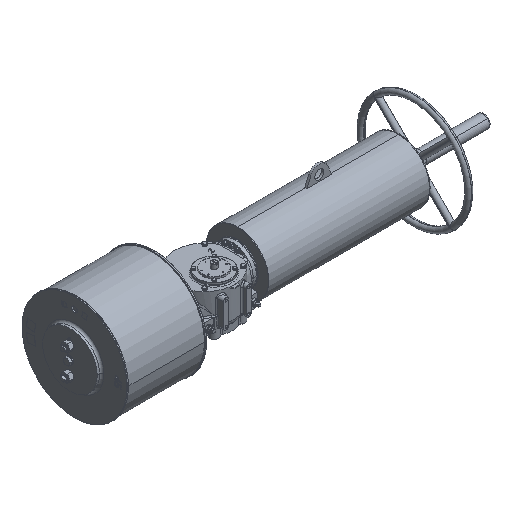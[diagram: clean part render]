
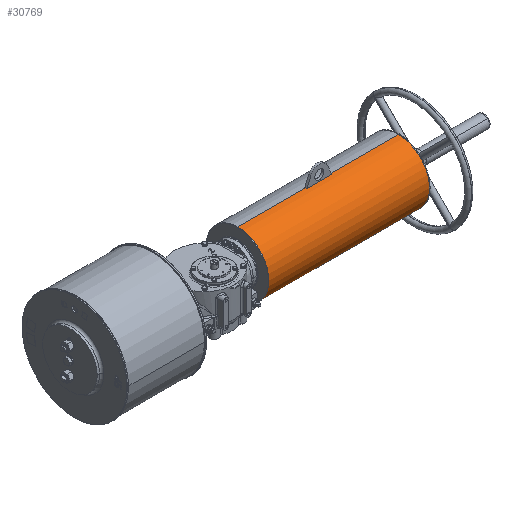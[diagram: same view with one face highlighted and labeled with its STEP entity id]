
A CAD part, isometric view. The second image highlights one B-rep face of the part: STEP entity #30769.
In plain terms, the highlighted cylindrical face has radius 136.5 mm (diameter 273 mm), a partial arc.
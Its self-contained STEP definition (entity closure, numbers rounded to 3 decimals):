
#980 = AXIS2_PLACEMENT_3D ( 'NONE', #63736, #1626, #7952 ) ;
#1626 = DIRECTION ( 'NONE',  ( 1., 0., 0. ) ) ;
#2798 = DIRECTION ( 'NONE',  ( 1., 0., 0. ) ) ;
#3291 = CARTESIAN_POINT ( 'NONE',  ( 886.977, 35.296, 138.5 ) ) ;
#3846 = DIRECTION ( 'NONE',  ( 1., 0., 0. ) ) ;
#7470 = EDGE_CURVE ( 'NONE', #26779, #81012, #63318, .T. ) ;
#7783 = DIRECTION ( 'NONE',  ( -1., 0., 0. ) ) ;
#7881 = DIRECTION ( 'NONE',  ( 0., 0., 1. ) ) ;
#7952 = DIRECTION ( 'NONE',  ( 0., 0., 1. ) ) ;
#8470 = VECTOR ( 'NONE', #62289, 1000. ) ;
#9635 = CIRCLE ( 'NONE', #60312, 136.5 ) ;
#10128 = CARTESIAN_POINT ( 'NONE',  ( 179.977, 35.296, 2. ) ) ;
#10563 = DIRECTION ( 'NONE',  ( 0., 0., 1. ) ) ;
#10880 = CARTESIAN_POINT ( 'NONE',  ( 179.977, 35.296, -134.5 ) ) ;
#13198 = EDGE_CURVE ( 'NONE', #26779, #74088, #74455, .T. ) ;
#13322 = LINE ( 'NONE', #40065, #8470 ) ;
#13792 = VERTEX_POINT ( 'NONE', #57995 ) ;
#15178 = EDGE_CURVE ( 'NONE', #81012, #72886, #22913, .T. ) ;
#19208 = CARTESIAN_POINT ( 'NONE',  ( 183.477, 35.296, 2. ) ) ;
#19403 = VERTEX_POINT ( 'NONE', #67405 ) ;
#21045 = ORIENTED_EDGE ( 'NONE', *, *, #25008, .F. ) ;
#21097 = VECTOR ( 'NONE', #74901, 1000. ) ;
#22913 = LINE ( 'NONE', #50603, #64816 ) ;
#23541 = ORIENTED_EDGE ( 'NONE', *, *, #80437, .T. ) ;
#25008 = EDGE_CURVE ( 'NONE', #13792, #19403, #44027, .T. ) ;
#26779 = VERTEX_POINT ( 'NONE', #72835 ) ;
#30087 = DIRECTION ( 'NONE',  ( -1., 0., 0. ) ) ;
#30769 = ADVANCED_FACE ( 'NONE', ( #31965 ), #81362, .T. ) ;
#30829 = ORIENTED_EDGE ( 'NONE', *, *, #7470, .T. ) ;
#31704 = VERTEX_POINT ( 'NONE', #52940 ) ;
#31965 = FACE_OUTER_BOUND ( 'NONE', #75128, .T. ) ;
#34025 = ORIENTED_EDGE ( 'NONE', *, *, #52867, .T. ) ;
#34605 = CARTESIAN_POINT ( 'NONE',  ( 886.977, 35.296, -134.5 ) ) ;
#35864 = VECTOR ( 'NONE', #2798, 1000. ) ;
#36961 = DIRECTION ( 'NONE',  ( -1., 0., 0. ) ) ;
#38274 = DIRECTION ( 'NONE',  ( 0., 0., 1. ) ) ;
#39316 = ORIENTED_EDGE ( 'NONE', *, *, #15178, .T. ) ;
#39488 = VERTEX_POINT ( 'NONE', #10880 ) ;
#40055 = CIRCLE ( 'NONE', #980, 136.5 ) ;
#40065 = CARTESIAN_POINT ( 'NONE',  ( 183.477, 35.296, -134.5 ) ) ;
#40448 = CARTESIAN_POINT ( 'NONE',  ( 183.477, 35.296, 138.5 ) ) ;
#40904 = DIRECTION ( 'NONE',  ( 1., 0., 0. ) ) ;
#41345 = CARTESIAN_POINT ( 'NONE',  ( 479.477, 35.296, 2. ) ) ;
#43407 = EDGE_CURVE ( 'NONE', #64191, #74088, #81734, .T. ) ;
#44027 = LINE ( 'NONE', #64007, #35864 ) ;
#46605 = CARTESIAN_POINT ( 'NONE',  ( 479.477, 30.296, 138.408 ) ) ;
#48882 = AXIS2_PLACEMENT_3D ( 'NONE', #60436, #40904, #83058 ) ;
#50603 = CARTESIAN_POINT ( 'NONE',  ( 183.477, 30.296, 138.408 ) ) ;
#52867 = EDGE_CURVE ( 'NONE', #13792, #31704, #9635, .T. ) ;
#52940 = CARTESIAN_POINT ( 'NONE',  ( 179.977, -101.204, 2. ) ) ;
#53722 = ORIENTED_EDGE ( 'NONE', *, *, #43407, .T. ) ;
#54197 = CARTESIAN_POINT ( 'NONE',  ( 587.477, 30.296, 138.408 ) ) ;
#54554 = EDGE_CURVE ( 'NONE', #39488, #64191, #13322, .T. ) ;
#55963 = CARTESIAN_POINT ( 'NONE',  ( 886.977, 35.296, 2. ) ) ;
#57995 = CARTESIAN_POINT ( 'NONE',  ( 179.977, 35.296, 138.5 ) ) ;
#60312 = AXIS2_PLACEMENT_3D ( 'NONE', #10128, #72683, #10563 ) ;
#60436 = CARTESIAN_POINT ( 'NONE',  ( 587.477, 35.296, 2. ) ) ;
#62238 = AXIS2_PLACEMENT_3D ( 'NONE', #19208, #3846, #38274 ) ;
#62289 = DIRECTION ( 'NONE',  ( 1., 0., 0. ) ) ;
#63318 = CIRCLE ( 'NONE', #48882, 136.5 ) ;
#63581 = ORIENTED_EDGE ( 'NONE', *, *, #13198, .F. ) ;
#63736 = CARTESIAN_POINT ( 'NONE',  ( 179.977, 35.296, 2. ) ) ;
#64007 = CARTESIAN_POINT ( 'NONE',  ( 183.477, 35.296, 138.5 ) ) ;
#64191 = VERTEX_POINT ( 'NONE', #34605 ) ;
#64816 = VECTOR ( 'NONE', #36961, 1000. ) ;
#67405 = CARTESIAN_POINT ( 'NONE',  ( 479.477, 35.296, 138.5 ) ) ;
#69909 = DIRECTION ( 'NONE',  ( 0., 1., 0. ) ) ;
#71184 = ORIENTED_EDGE ( 'NONE', *, *, #54554, .T. ) ;
#71627 = AXIS2_PLACEMENT_3D ( 'NONE', #55963, #30087, #7881 ) ;
#72683 = DIRECTION ( 'NONE',  ( 1., 0., 0. ) ) ;
#72835 = CARTESIAN_POINT ( 'NONE',  ( 587.477, 35.296, 138.5 ) ) ;
#72886 = VERTEX_POINT ( 'NONE', #46605 ) ;
#74088 = VERTEX_POINT ( 'NONE', #3291 ) ;
#74455 = LINE ( 'NONE', #40448, #21097 ) ;
#74608 = ORIENTED_EDGE ( 'NONE', *, *, #85799, .T. ) ;
#74901 = DIRECTION ( 'NONE',  ( 1., 0., 0. ) ) ;
#75128 = EDGE_LOOP ( 'NONE', ( #34025, #74608, #71184, #53722, #63581, #30829, #39316, #23541, #21045 ) ) ;
#80437 = EDGE_CURVE ( 'NONE', #72886, #19403, #87119, .T. ) ;
#81012 = VERTEX_POINT ( 'NONE', #54197 ) ;
#81362 = CYLINDRICAL_SURFACE ( 'NONE', #62238, 136.5 ) ;
#81734 = CIRCLE ( 'NONE', #71627, 136.5 ) ;
#83058 = DIRECTION ( 'NONE',  ( 0., -1., 0. ) ) ;
#85698 = AXIS2_PLACEMENT_3D ( 'NONE', #41345, #7783, #69909 ) ;
#85799 = EDGE_CURVE ( 'NONE', #31704, #39488, #40055, .T. ) ;
#87119 = CIRCLE ( 'NONE', #85698, 136.5 ) ;
